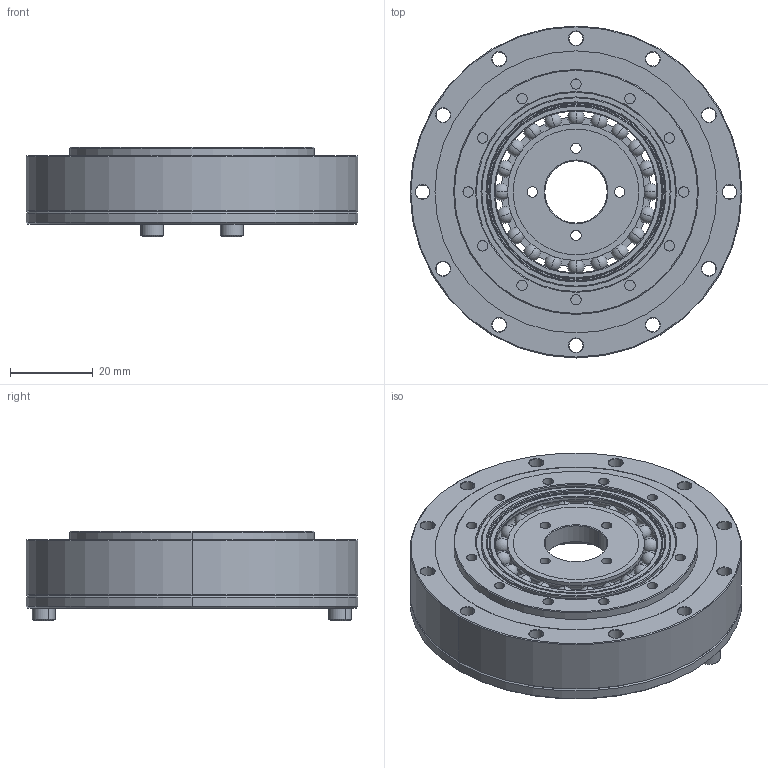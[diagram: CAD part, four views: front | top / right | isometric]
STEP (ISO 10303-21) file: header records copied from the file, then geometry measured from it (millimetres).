
FILE_DESCRIPTION (( 'STEP AP203' ), '1' );
FILE_NAME ('BHD-17-XXX-U-¢ñ.STEP', '2019-01-15T06:12:23', ( 'User' ), ( 'China' ), 'SwSTEP 2.0', 'SolidWorks 2015', '' );
FILE_SCHEMA (( 'CONFIG_CONTROL_DESIGN' ));
Length unit declared in the file: millimetre
Products named in the file (1): BHD-17-XXX-U-ｉ
Bounding box: 80 x 80 x 21.5 mm (x, y, z)
Surface area: 28061.6 mm2 (no closed solid volume)
Topology: 0 solids, 29 shells, 273 faces, 734 edges, 472 vertices
Faces by surface type: cylinder 118, cone 68, sphere 40, plane 37, torus 10
Entity records: 7981 total; most frequent: DIRECTION 1574, CARTESIAN_POINT 1316, ORIENTED_EDGE 1156, AXIS2_PLACEMENT_3D 670, EDGE_CURVE 630, VERTEX_POINT 412, CIRCLE 396, EDGE_LOOP 352
